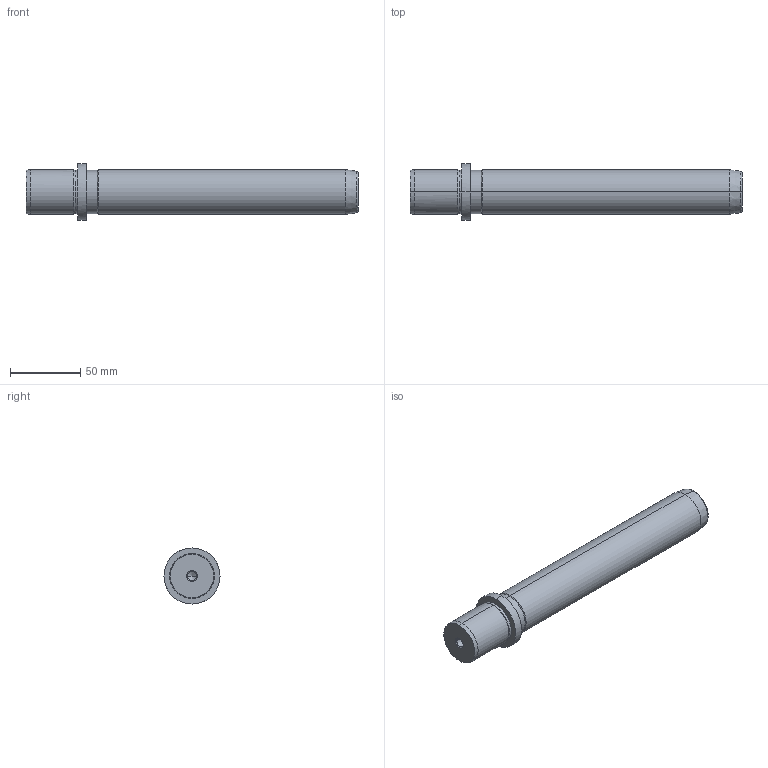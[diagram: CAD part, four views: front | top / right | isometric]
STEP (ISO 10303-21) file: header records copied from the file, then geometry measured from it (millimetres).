
FILE_DESCRIPTION(('CATIA V5 STEP Exchange'),'2;1');
FILE_NAME('C:\Users\Utente\Desktop\IO LAVORO\3D X SITO CF\X SITO\719\719-32x200.stp','2021-01-03T15:49:49+00:00',('none'),('none'),'CATIA Version 5 Release 20 GA (IN-10)','CATIA V5 STEP AP203','none');
FILE_SCHEMA(('CONFIG_CONTROL_DESIGN'));
Length unit declared in the file: millimetre
Products named in the file (1): 719-32x200
Bounding box: 237 x 40 x 40 mm (x, y, z)
Volume: 190437.8 mm3; surface area: 27365.7 mm2
Topology: 1 solids, 1 shells, 36 faces, 100 edges, 66 vertices
Faces by surface type: cone 16, cylinder 14, plane 4, torus 2
Entity records: 1270 total; most frequent: CARTESIAN_POINT 339, ORIENTED_EDGE 192, DIRECTION 158, EDGE_CURVE 96, AXIS2_PLACEMENT_3D 93, VERTEX_POINT 66, CIRCLE 56, EDGE_LOOP 40
